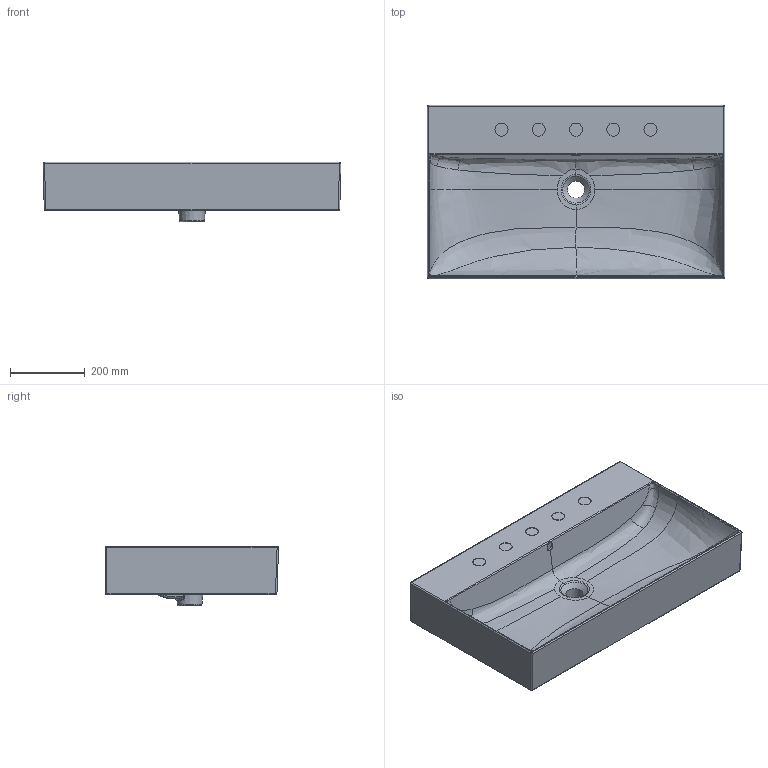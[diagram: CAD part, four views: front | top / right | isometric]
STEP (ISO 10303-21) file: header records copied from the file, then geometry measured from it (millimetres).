
FILE_DESCRIPTION(/* description */ (''),/* implementation_level */ '2;1');
FILE_NAME(/* name */ 'LAVABO_80X46.5_PROTAP_01_20200317.stp',/* time_stamp */ '2020-03-17T10:37:23+01:00',/* author */ (''),/* organization */ (''),/* preprocessor_version */ 'ST-DEVELOPER v16.7',/* originating_system */ 'SIEMENS PLM Software NX 12.0',/* authorisation */ '');
FILE_SCHEMA (('AUTOMOTIVE_DESIGN { 1 0 10303 214 3 1 1 1 }'));
Products named in the file (1): Cava26A0CAF5btxw
Bounding box: 799.84 x 464.83 x 160.02 mm (x, y, z)
Volume: 15410380.1 mm3; surface area: 1320297.2 mm2
Topology: 1 solids, 1 shells, 354 faces, 849 edges, 482 vertices
Faces by surface type: bspline 157, cylinder 106, plane 48, sphere 24, torus 14, cone 3, extrusion 2
Full cylindrical faces by diameter (mm): 10 x6, 22 x1, 35 x5, 46 x1, 50 x5
Entity records: 44682 total; most frequent: CARTESIAN_POINT 37791, ORIENTED_EDGE 1578, DIRECTION 1166, EDGE_CURVE 789, AXIS2_PLACEMENT_3D 495, VERTEX_POINT 474, EDGE_LOOP 397, ADVANCED_FACE 354
